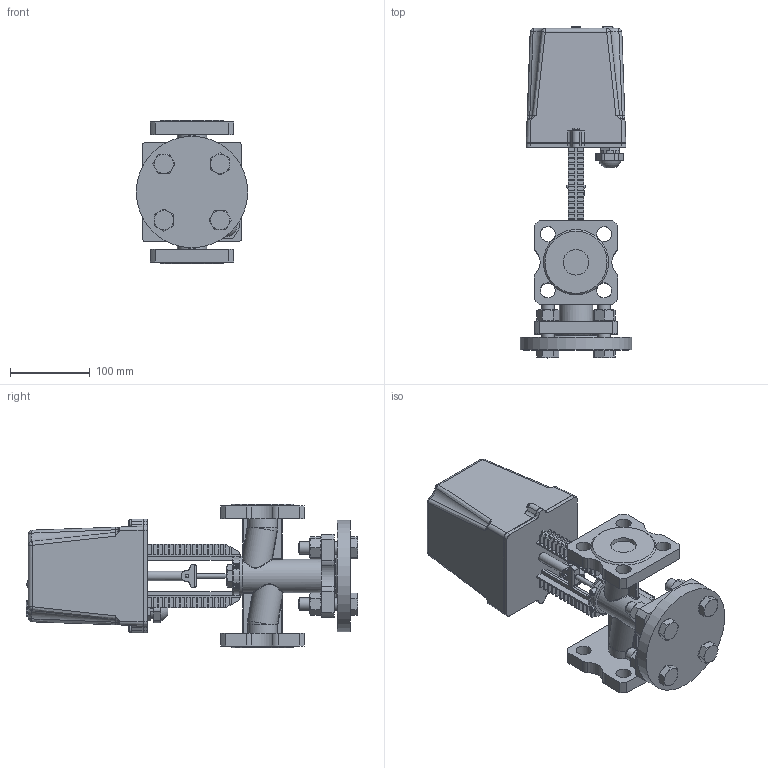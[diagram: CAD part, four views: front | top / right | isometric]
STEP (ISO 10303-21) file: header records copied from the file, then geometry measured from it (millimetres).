
FILE_DESCRIPTION(('STEP AP242'), '1');
FILE_NAME('VSR1-13V-PED-F Êëàïàí çàïîðíî-ðåãóëèðóþùèé DN.ru Äó32 Ðó16', '', ('UNSPECIFIED'), ('UNSPECIFIED'), 'C3D Converter', 'C3D Toolkit', '');
FILE_SCHEMA(('AP242_MANAGED_MODEL_BASED_3D_ENGINEERING_MIM_LF { 1 0 10303 442 1 1 4 }'));
Length unit declared in the file: millimetre
Products named in the file (1): VSR1-13V-PED-F
Bounding box: 140 x 417 x 180 mm (x, y, z)
Volume: 3268403.9 mm3; surface area: 327189.5 mm2
Topology: 1 solids, 1 shells, 1436 faces, 3874 edges, 2448 vertices
Faces by surface type: plane 747, cylinder 307, extrusion 163, bspline 84, cone 60, torus 45, sphere 30
Full cylindrical faces by diameter (mm): 4 x5, 6 x1, 7 x2, 7.5 x3, 12 x2, 13.835 x4, 16 x4, 18 x4, 19 x12, 24 x4, 25 x1, 32 x2, 42 x1, 50 x1, 140 x1
Entity records: 64776 total; most frequent: CARTESIAN_POINT 22752, ORIENTED_EDGE 7454, DIRECTION 6360, EDGE_CURVE 3727, VERTEX_POINT 2438, VECTOR 2426, LINE 2263, AXIS2_PLACEMENT_3D 1967
